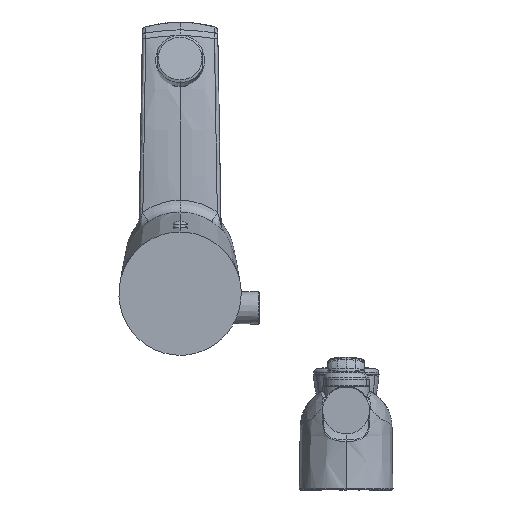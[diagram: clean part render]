
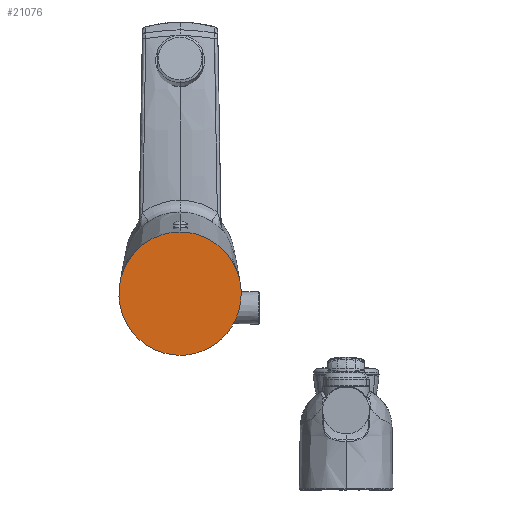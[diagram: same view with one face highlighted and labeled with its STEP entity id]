
A CAD part, front view. The second image highlights one B-rep face of the part: STEP entity #21076.
In plain terms, the highlighted planar face has unit normal (0, -1, 0).
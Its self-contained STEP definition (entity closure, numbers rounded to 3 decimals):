
#1636 = CARTESIAN_POINT ( 'NONE',  ( -102.956, 334.871, 383.238 ) ) ;
#3506 = CARTESIAN_POINT ( 'NONE',  ( -162.952, 334.871, 322.791 ) ) ;
#6016 = CARTESIAN_POINT ( 'NONE',  ( -162.952, 334.871, 383.238 ) ) ;
#8942 = CARTESIAN_POINT ( 'NONE',  ( -162.952, 334.871, 322.791 ) ) ;
#9317 = AXIS2_PLACEMENT_3D ( 'NONE', #26144, #15859, #26904 ) ;
#9609 = CARTESIAN_POINT ( 'NONE',  ( -102.956, 334.871, 322.791 ) ) ;
#10189 = ORIENTED_EDGE ( 'NONE', *, *, #13526, .F. ) ;
#10833 = EDGE_CURVE ( 'NONE', #26224, #21585, #33936, .T. ) ;
#13526 = EDGE_CURVE ( 'NONE', #21585, #26224, #14448, .T. ) ;
#14448 =( BOUNDED_CURVE ( )  B_SPLINE_CURVE ( 3, ( #18466, #1636, #9609, #21291 ),
 .UNSPECIFIED., .F., .F. ) 
 B_SPLINE_CURVE_WITH_KNOTS ( ( 4, 4 ),
 ( 3.142, 6.283 ),
 .UNSPECIFIED. ) 
 CURVE ( )  GEOMETRIC_REPRESENTATION_ITEM ( )  RATIONAL_B_SPLINE_CURVE ( ( 1., 0.333, 0.333, 1. ) ) 
 REPRESENTATION_ITEM ( '' )  );
#15859 = DIRECTION ( 'NONE',  ( 0., 1., 0. ) ) ;
#17538 = CARTESIAN_POINT ( 'NONE',  ( -222.948, 334.871, 322.791 ) ) ;
#18466 = CARTESIAN_POINT ( 'NONE',  ( -162.952, 334.871, 383.238 ) ) ;
#20512 = PLANE ( 'NONE',  #9317 ) ;
#21076 = ADVANCED_FACE ( 'NONE', ( #28030 ), #20512, .F. ) ;
#21291 = CARTESIAN_POINT ( 'NONE',  ( -162.952, 334.871, 322.791 ) ) ;
#21585 = VERTEX_POINT ( 'NONE', #35445 ) ;
#25877 = CARTESIAN_POINT ( 'NONE',  ( -222.948, 334.871, 383.238 ) ) ;
#26144 = CARTESIAN_POINT ( 'NONE',  ( -416.007, 334.871, 299.898 ) ) ;
#26224 = VERTEX_POINT ( 'NONE', #3506 ) ;
#26904 = DIRECTION ( 'NONE',  ( 0., 0., 1. ) ) ;
#28030 = FACE_OUTER_BOUND ( 'NONE', #30483, .T. ) ;
#30483 = EDGE_LOOP ( 'NONE', ( #36384, #10189 ) ) ;
#33936 =( BOUNDED_CURVE ( )  B_SPLINE_CURVE ( 3, ( #8942, #17538, #25877, #6016 ),
 .UNSPECIFIED., .F., .F. ) 
 B_SPLINE_CURVE_WITH_KNOTS ( ( 4, 4 ),
 ( 0., 3.142 ),
 .UNSPECIFIED. ) 
 CURVE ( )  GEOMETRIC_REPRESENTATION_ITEM ( )  RATIONAL_B_SPLINE_CURVE ( ( 1., 0.333, 0.333, 1. ) ) 
 REPRESENTATION_ITEM ( '' )  );
#35445 = CARTESIAN_POINT ( 'NONE',  ( -162.952, 334.871, 383.238 ) ) ;
#36384 = ORIENTED_EDGE ( 'NONE', *, *, #10833, .F. ) ;
